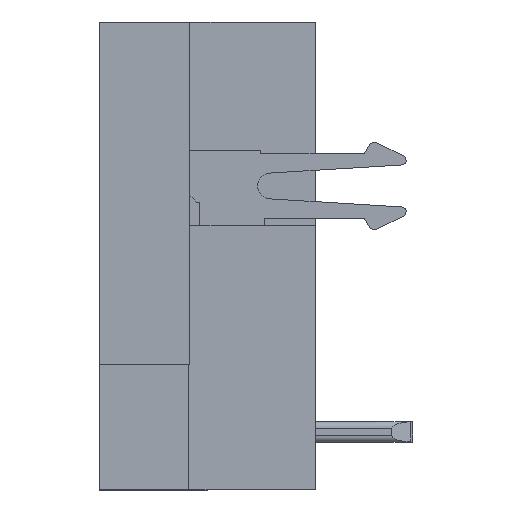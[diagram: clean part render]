
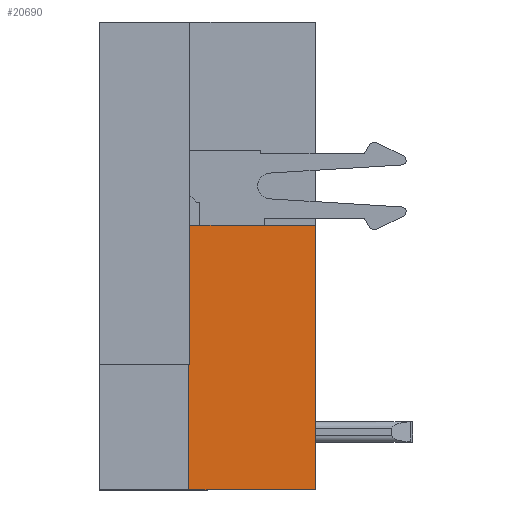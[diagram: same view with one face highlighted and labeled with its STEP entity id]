
A CAD part, left-side view. The second image highlights one B-rep face of the part: STEP entity #20690.
In plain terms, the highlighted planar face has unit normal (-1, 0, 0).
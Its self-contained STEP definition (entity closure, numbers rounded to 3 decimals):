
#1139 = EDGE_CURVE ( 'NONE', #26369, #30673, #22232, .T. ) ;
#2603 = CARTESIAN_POINT ( 'NONE',  ( -37.91, 3.93, -10.6 ) ) ;
#2731 = ORIENTED_EDGE ( 'NONE', *, *, #19006, .F. ) ;
#4047 = VECTOR ( 'NONE', #12837, 1000. ) ;
#4524 = DIRECTION ( 'NONE',  ( 0., 0., 1. ) ) ;
#4983 = CARTESIAN_POINT ( 'NONE',  ( -37.91, 3.93, -14.5 ) ) ;
#5314 = DIRECTION ( 'NONE',  ( 1., 0., 0. ) ) ;
#5353 = EDGE_CURVE ( 'NONE', #14550, #32444, #30548, .T. ) ;
#9232 = CARTESIAN_POINT ( 'NONE',  ( -37.91, 0., -14.5 ) ) ;
#9729 = EDGE_LOOP ( 'NONE', ( #28395, #18664, #20887, #32424, #2731, #17195 ) ) ;
#10445 = DIRECTION ( 'NONE',  ( 0., 1., 0. ) ) ;
#10783 = CARTESIAN_POINT ( 'NONE',  ( -37.91, 0., -10.6 ) ) ;
#12837 = DIRECTION ( 'NONE',  ( 0., -1., 0. ) ) ;
#12865 = FACE_OUTER_BOUND ( 'NONE', #9729, .T. ) ;
#13077 = CARTESIAN_POINT ( 'NONE',  ( -37.91, 3.93, -10.6 ) ) ;
#13431 = CARTESIAN_POINT ( 'NONE',  ( -37.91, 3.9, -10.6 ) ) ;
#13759 = EDGE_CURVE ( 'NONE', #31127, #30673, #19562, .T. ) ;
#14550 = VERTEX_POINT ( 'NONE', #30019 ) ;
#15199 = VECTOR ( 'NONE', #10445, 1000. ) ;
#16310 = CARTESIAN_POINT ( 'NONE',  ( -37.91, 3.9, -6.3 ) ) ;
#17195 = ORIENTED_EDGE ( 'NONE', *, *, #1139, .T. ) ;
#17908 = DIRECTION ( 'NONE',  ( 0., 0., 1. ) ) ;
#18098 = EDGE_CURVE ( 'NONE', #24153, #32444, #32015, .T. ) ;
#18381 = VECTOR ( 'NONE', #21434, 1000. ) ;
#18664 = ORIENTED_EDGE ( 'NONE', *, *, #27426, .F. ) ;
#18879 = CARTESIAN_POINT ( 'NONE',  ( -37.91, 0., -14.5 ) ) ;
#19006 = EDGE_CURVE ( 'NONE', #26369, #24153, #20091, .T. ) ;
#19562 = LINE ( 'NONE', #2603, #26551 ) ;
#20091 = LINE ( 'NONE', #20294, #24192 ) ;
#20294 = CARTESIAN_POINT ( 'NONE',  ( -37.91, 3.9, -14.5 ) ) ;
#20690 = ADVANCED_FACE ( 'NONE', ( #12865 ), #31420, .F. ) ;
#20887 = ORIENTED_EDGE ( 'NONE', *, *, #5353, .T. ) ;
#21434 = DIRECTION ( 'NONE',  ( 0., 1., 0. ) ) ;
#21438 = DIRECTION ( 'NONE',  ( 0., 0., 1. ) ) ;
#22232 = LINE ( 'NONE', #10783, #15199 ) ;
#22499 = DIRECTION ( 'NONE',  ( 0., 0., 1. ) ) ;
#23641 = CARTESIAN_POINT ( 'NONE',  ( -37.91, 0., -14.5 ) ) ;
#24153 = VERTEX_POINT ( 'NONE', #16310 ) ;
#24192 = VECTOR ( 'NONE', #4524, 1000. ) ;
#24410 = VECTOR ( 'NONE', #22499, 1000. ) ;
#25688 = CARTESIAN_POINT ( 'NONE',  ( -37.91, 0., -6.3 ) ) ;
#26369 = VERTEX_POINT ( 'NONE', #13431 ) ;
#26551 = VECTOR ( 'NONE', #17908, 1000. ) ;
#27302 = AXIS2_PLACEMENT_3D ( 'NONE', #23641, #5314, #21438 ) ;
#27426 = EDGE_CURVE ( 'NONE', #14550, #31127, #34027, .T. ) ;
#28395 = ORIENTED_EDGE ( 'NONE', *, *, #13759, .F. ) ;
#30019 = CARTESIAN_POINT ( 'NONE',  ( -37.91, 0., -14.5 ) ) ;
#30548 = LINE ( 'NONE', #9232, #24410 ) ;
#30673 = VERTEX_POINT ( 'NONE', #13077 ) ;
#31127 = VERTEX_POINT ( 'NONE', #4983 ) ;
#31420 = PLANE ( 'NONE',  #27302 ) ;
#32015 = LINE ( 'NONE', #33865, #4047 ) ;
#32424 = ORIENTED_EDGE ( 'NONE', *, *, #18098, .F. ) ;
#32444 = VERTEX_POINT ( 'NONE', #25688 ) ;
#33865 = CARTESIAN_POINT ( 'NONE',  ( -37.91, 0., -6.3 ) ) ;
#34027 = LINE ( 'NONE', #18879, #18381 ) ;
